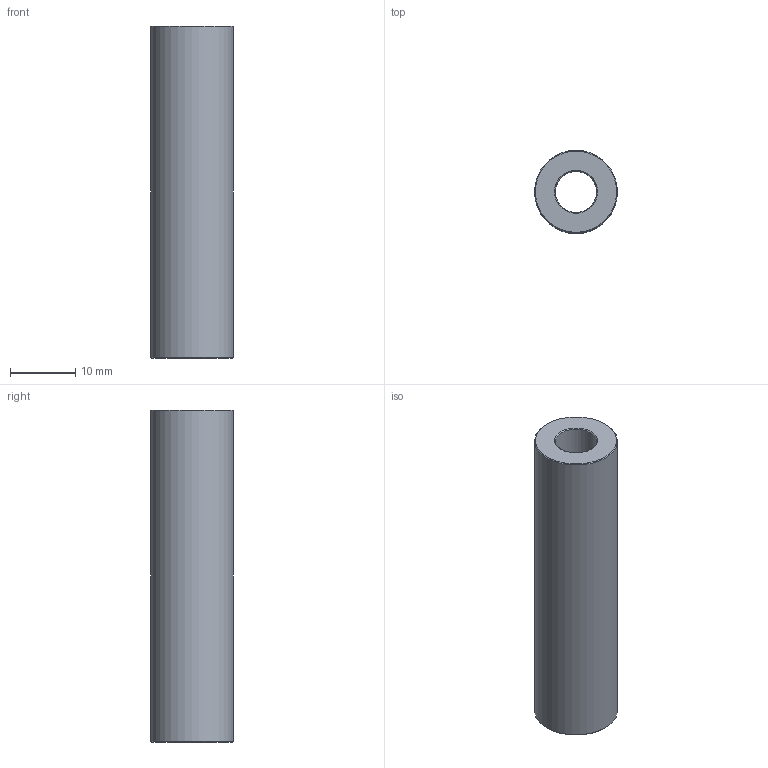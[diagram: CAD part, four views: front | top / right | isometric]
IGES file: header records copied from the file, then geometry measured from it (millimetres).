
Global section: file name: No Iges File Name specified; native system: AutoDesk Inventor R6.0; preprocessor: AutoDesk Inventor Iges Exporter R6.0; author: No Author specified; organization: No Organization specified; date: 20080104.191404; units: inch
Bounding box: 12.7 x 12.7 x 50.9 mm (x, y, z)
Surface area: 3227.4 mm2 (no closed solid volume)
Topology: 0 solids, 0 shells, 8 faces, 22 edges, 16 vertices
Faces by surface type: revolution 6, plane 2
